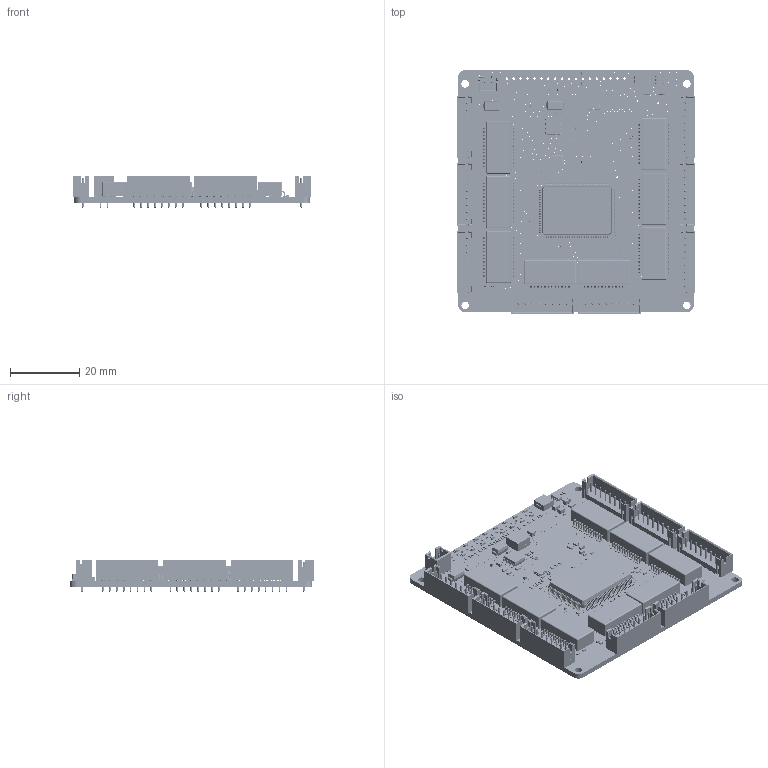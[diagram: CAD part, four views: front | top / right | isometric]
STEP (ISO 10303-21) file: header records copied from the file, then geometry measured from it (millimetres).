
FILE_DESCRIPTION(('Designed by EasyEDA Pro'),'2;1');
FILE_NAME('Open CASCADE Shape Model','2026-07-20T11:47:26',('Author'),( 'Open CASCADE'),'Open CASCADE STEP processor 7.8','Open CASCADE 7.8' ,'Unknown');
FILE_SCHEMA(('AUTOMOTIVE_DESIGN { 1 0 10303 214 1 1 1 1 }'));
Length unit declared in the file: millimetre
Products named in the file (1168): EasyEDA PCB Model~bJYO; Board~bJYO; TopCopper~bJYO; BottomCopper~bJYO; TopSilkscreen~bJYO; BottomSilkscreen~bJYO; TopFpcStiffener~bJYO; BottomFpcStiffener~bJYO; U5~SOP8-201809~SOP-8_L5.0-W3.8-H1.5-LS6.0-P1.00~bJYO; SOP8-201809~SOP-8_L5.0-W3.8-H1.5-LS6.0-P1.00~bJYO; C53~1206~C1206_L3.2-W1.6-H1.3_1~bJYO; 1206~C1206_L3.2-W1.6-H1.3_1~bJYO; C0402~C0402~5tbJ; C36~C0402~C0402~Wjsn; C48~C0402~C0402~b8LN; C51~C0402~C0402~rIIU; C52~C0402~C0402~uszC; C55~C0402~C0402~XAel; C56~C0402~C0402~YHW4; C59~C0402~C0402~Z7Vg; C60~C0402~C0402~fE4O; C2~C0402~C0402~mkJP; C20~C0402~C0402~8zwa; C21~C0402~C0402~CsFm; C25~C0402~C0402~DOO4; C26~C0402~C0402~hf9h; C29~C0402~C0402~aQJp; C3~C0402~C0402~j4xi; C30~C0402~C0402~WUib; C31~C0402~C0402~5SU5; C34~C0402~C0402~zLSJ; C35~C0402~C0402~2pYj; C45~C0402~C0402~8iPi; C46~C0402~C0402~2ysq; C67~C0402~C0402~Ey5p; C6~C0402~C0402~dV7h; C5~C0402~C0402~64ji; C57~C0402~C0402~DkU7; C58~C0402~C0402~yjsT; C61~C0402~C0402~vd2l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
Assembly tree (1293 placements, depth 3):
  EasyEDA PCB Model~bJYO
    Board~bJYO
    TopCopper~bJYO
      TopCopper~bJYO
      TopCopper~bJYO
      TopCopper~bJYO
      TopCopper~bJYO
      TopCopper~bJYO
      TopCopper~bJYO
      TopCopper~bJYO
      TopCopper~bJYO
      TopCopper~bJYO
      TopCopper~bJYO
      TopCopper~bJYO
      TopCopper~bJYO
      TopCopper~bJYO
      TopCopper~bJYO
      TopCopper~bJYO
      TopCopper~bJYO
      TopCopper~bJYO
      TopCopper~bJYO
      TopCopper~bJYO
      TopCopper~bJYO
      TopCopper~bJYO
      TopCopper~bJYO
      TopCopper~bJYO
      TopCopper~bJYO
      TopCopper~bJYO
      TopCopper~bJYO
      TopCopper~bJYO
      TopCopper~bJYO
      TopCopper~bJYO
      TopCopper~bJYO
      TopCopper~bJYO
      TopCopper~bJYO
      TopCopper~bJYO
      TopCopper~bJYO
      TopCopper~bJYO
      TopCopper~bJYO
      TopCopper~bJYO
      TopCopper~bJYO
      TopCopper~bJYO
      TopCopper~bJYO
      TopCopper~bJYO
      TopCopper~bJYO
      TopCopper~bJYO
      TopCopper~bJYO
      TopCopper~bJYO
      TopCopper~bJYO
      TopCopper~bJYO
      TopCopper~bJYO
      TopCopper~bJYO
      TopCopper~bJYO
      TopCopper~bJYO
      TopCopper~bJYO
      TopCopper~bJYO
      TopCopper~bJYO
      TopCopper~bJYO
      TopCopper~bJYO
      TopCopper~bJYO
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Bounding box: 68.93 x 70.45 x 9.4 mm (x, y, z)
Volume: 13709.8 mm3; surface area: 26585.7 mm2
Topology: 575 solids, 1569 shells, 51567 faces, 205031 edges, 158441 vertices
Faces by surface type: plane 30759, bspline 15021, cylinder 5018, sphere 461, cone 256, torus 52
Full cylindrical faces by diameter (mm): 0.189 x1
Entity records: 993302 total; most frequent: CARTESIAN_POINT 222777, DIRECTION 118626, ORIENTED_EDGE 117616, EDGE_CURVE 92430, VERTEX_POINT 83917, LINE 76596, VECTOR 76596, AXIS2_PLACEMENT_3D 21015
